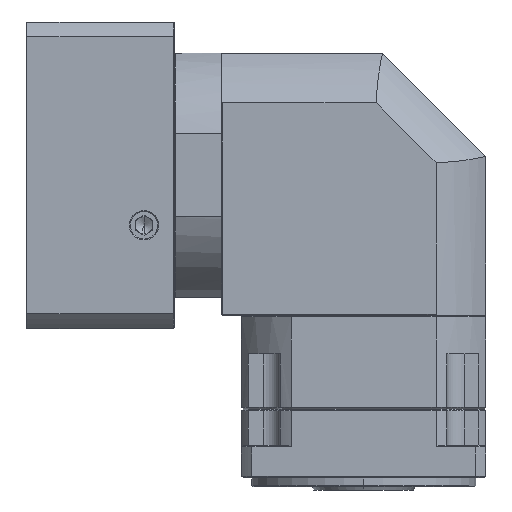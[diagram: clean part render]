
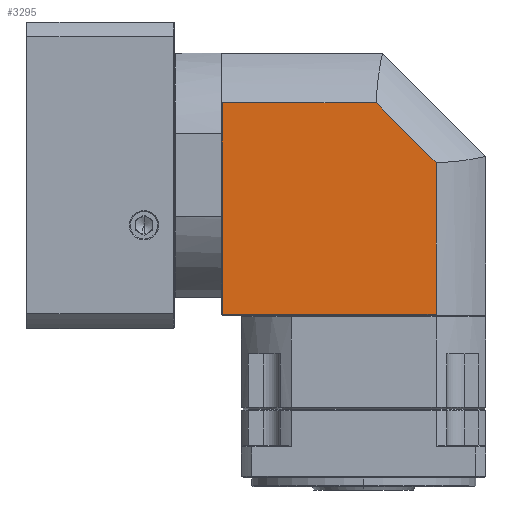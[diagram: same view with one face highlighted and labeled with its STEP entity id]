
A CAD part, left-side view. The second image highlights one B-rep face of the part: STEP entity #3295.
In plain terms, the highlighted planar face has unit normal (-1, 0, 0).
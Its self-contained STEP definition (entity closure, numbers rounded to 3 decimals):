
#1348 = FACE_OUTER_BOUND ( 'NONE', #50713, .T. ) ;
#3295 = ADVANCED_FACE ( 'NONE', ( #1348 ), #90569, .T. ) ;
#8626 = DIRECTION ( 'NONE',  ( 0., 0., 1. ) ) ;
#9625 = VECTOR ( 'NONE', #93457, 1000. ) ;
#10146 = DIRECTION ( 'NONE',  ( 0., 0., -1. ) ) ;
#15241 = CARTESIAN_POINT ( 'NONE',  ( -174.775, 32.349, 59.267 ) ) ;
#15917 = ORIENTED_EDGE ( 'NONE', *, *, #55326, .T. ) ;
#18307 = CARTESIAN_POINT ( 'NONE',  ( -174.775, -2.324, 24.595 ) ) ;
#18645 = VERTEX_POINT ( 'NONE', #15241 ) ;
#26292 = AXIS2_PLACEMENT_3D ( 'NONE', #70199, #81779, #10146 ) ;
#26869 = LINE ( 'NONE', #69105, #131139 ) ;
#34727 = ORIENTED_EDGE ( 'NONE', *, *, #41377, .F. ) ;
#37212 = VERTEX_POINT ( 'NONE', #37934 ) ;
#37570 = DIRECTION ( 'NONE',  ( 0., -1., 0. ) ) ;
#37934 = CARTESIAN_POINT ( 'NONE',  ( -174.775, -2.324, 24.595 ) ) ;
#41377 = EDGE_CURVE ( 'NONE', #103572, #18645, #88495, .T. ) ;
#42995 = CARTESIAN_POINT ( 'NONE',  ( -174.775, 45.441, -63.448 ) ) ;
#44645 = VECTOR ( 'NONE', #57241, 1000. ) ;
#50713 = EDGE_LOOP ( 'NONE', ( #34727, #74949, #72446, #15917, #126881 ) ) ;
#55326 = EDGE_CURVE ( 'NONE', #94603, #37212, #99757, .T. ) ;
#57241 = DIRECTION ( 'NONE',  ( 0., 0.707, 0.707 ) ) ;
#63372 = CARTESIAN_POINT ( 'NONE',  ( -174.775, -2.324, 12.152 ) ) ;
#69105 = CARTESIAN_POINT ( 'NONE',  ( -174.775, 121.691, 12.152 ) ) ;
#70199 = CARTESIAN_POINT ( 'NONE',  ( -174.775, 45.441, 12.152 ) ) ;
#72446 = ORIENTED_EDGE ( 'NONE', *, *, #129802, .T. ) ;
#73517 = DIRECTION ( 'NONE',  ( 0., -1., 0. ) ) ;
#74949 = ORIENTED_EDGE ( 'NONE', *, *, #97275, .F. ) ;
#81340 = EDGE_CURVE ( 'NONE', #37212, #18645, #98387, .T. ) ;
#81779 = DIRECTION ( 'NONE',  ( -1., 0., 0. ) ) ;
#86423 = CARTESIAN_POINT ( 'NONE',  ( -174.775, -2.324, -63.448 ) ) ;
#88354 = CARTESIAN_POINT ( 'NONE',  ( -174.775, 121.691, 59.267 ) ) ;
#88495 = LINE ( 'NONE', #106476, #91638 ) ;
#90569 = PLANE ( 'NONE',  #26292 ) ;
#91638 = VECTOR ( 'NONE', #37570, 1000. ) ;
#93457 = DIRECTION ( 'NONE',  ( 0., 0., 1. ) ) ;
#94603 = VERTEX_POINT ( 'NONE', #86423 ) ;
#97275 = EDGE_CURVE ( 'NONE', #110042, #103572, #26869, .T. ) ;
#98387 = LINE ( 'NONE', #18307, #44645 ) ;
#99757 = LINE ( 'NONE', #63372, #9625 ) ;
#103572 = VERTEX_POINT ( 'NONE', #88354 ) ;
#106476 = CARTESIAN_POINT ( 'NONE',  ( -174.775, -271.824, 59.267 ) ) ;
#106500 = LINE ( 'NONE', #42995, #125523 ) ;
#110042 = VERTEX_POINT ( 'NONE', #118350 ) ;
#118350 = CARTESIAN_POINT ( 'NONE',  ( -174.775, 121.691, -63.448 ) ) ;
#125523 = VECTOR ( 'NONE', #73517, 1000. ) ;
#126881 = ORIENTED_EDGE ( 'NONE', *, *, #81340, .T. ) ;
#129802 = EDGE_CURVE ( 'NONE', #110042, #94603, #106500, .T. ) ;
#131139 = VECTOR ( 'NONE', #8626, 1000. ) ;
